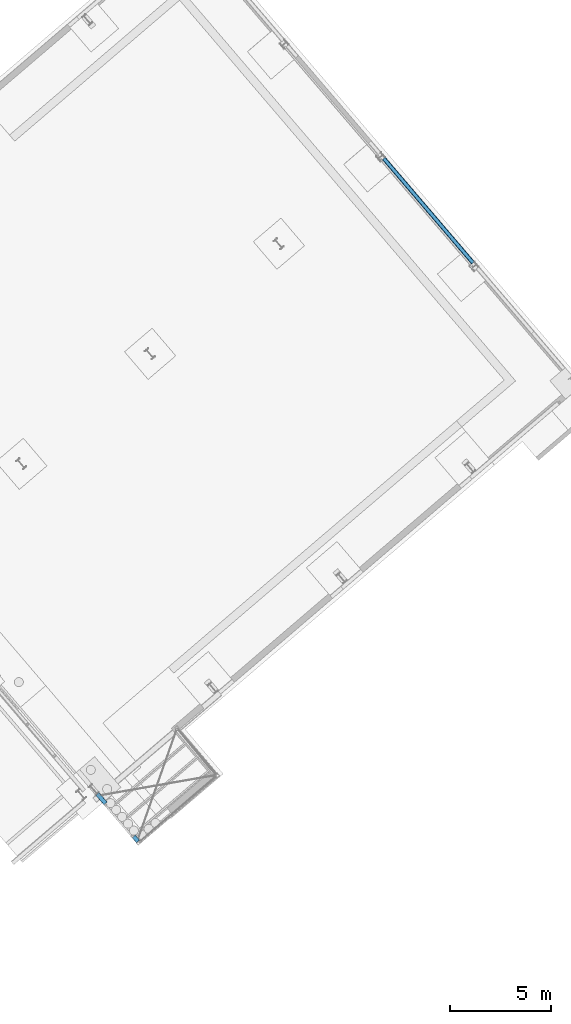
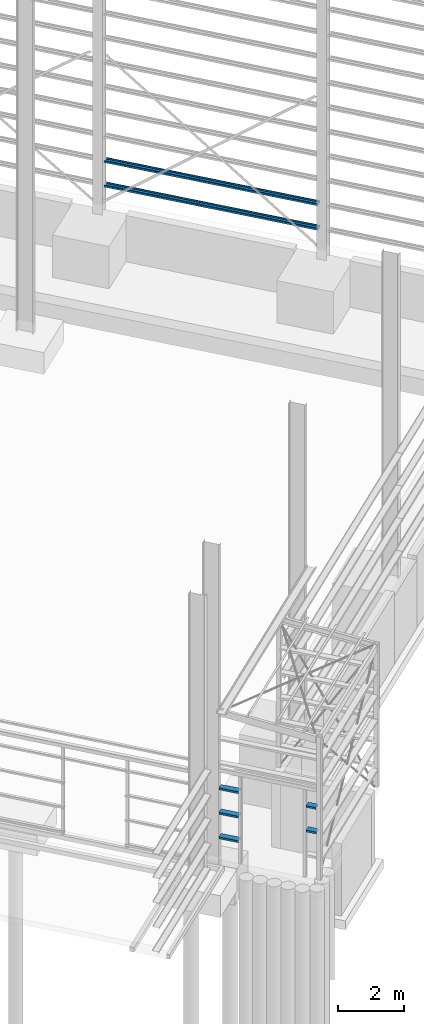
# One storey, part 33 of 41: 7 beams, 1 element without a shape of its own.
"""IFC2X3 building model written with IfcOpenShell, lengths in millimetres."""

from ifc_helpers import new_model, entity, si_unit, converted_unit, derived_unit, direction, frame, frame_2d, origin, place, context, subcontext, project, spatial, polyline, circle_curve, parameter, trimmed, segment, composite_curve, outline, extrude, material, type_object, element, aggregate, save


model = new_model("IFC2X3")

# Units and contexts
model_context = context("Model", 3, precision=0.01, world=origin(), true_north=direction((6.123031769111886e-17, 1.0)))
body_context = subcontext(model_context, "Body", "Model", "MODEL_VIEW")
ifc_project = project(units=[si_unit("LENGTHUNIT", "METRE", prefix="MILLI"), si_unit("AREAUNIT", "SQUARE_METRE"), si_unit("VOLUMEUNIT", "CUBIC_METRE"), converted_unit("PLANEANGLEUNIT", "DEGREE", entity("IfcRatioMeasure", 0.017453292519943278), si_unit("PLANEANGLEUNIT", "RADIAN"), dimensions=[0, 0, 0, 0, 0, 0, 0]), si_unit("MASSUNIT", "GRAM", prefix="KILO"), derived_unit("MASSDENSITYUNIT", [(si_unit("MASSUNIT", "GRAM", prefix="KILO"), 1), (si_unit("LENGTHUNIT", "METRE"), -3)]), derived_unit("MOMENTOFINERTIAUNIT", [(si_unit("LENGTHUNIT", "METRE"), 4)]), si_unit("TIMEUNIT", "SECOND"), si_unit("FREQUENCYUNIT", "HERTZ"), si_unit("THERMODYNAMICTEMPERATUREUNIT", "DEGREE_CELSIUS"), derived_unit("THERMALTRANSMITTANCEUNIT", [(si_unit("MASSUNIT", "GRAM", prefix="KILO"), 1), (si_unit("THERMODYNAMICTEMPERATUREUNIT", "KELVIN"), -1), (si_unit("TIMEUNIT", "SECOND"), -3)]), derived_unit("VOLUMETRICFLOWRATEUNIT", [(si_unit("LENGTHUNIT", "METRE"), 3), (si_unit("TIMEUNIT", "SECOND"), -1)]), derived_unit("MASSFLOWRATEUNIT", [(si_unit("MASSUNIT", "GRAM", prefix="KILO"), 1), (si_unit("TIMEUNIT", "SECOND"), -1)]), derived_unit("ROTATIONALFREQUENCYUNIT", [(si_unit("TIMEUNIT", "SECOND"), -1)]), si_unit("ELECTRICCURRENTUNIT", "AMPERE"), si_unit("ELECTRICVOLTAGEUNIT", "VOLT"), si_unit("POWERUNIT", "WATT"), si_unit("FORCEUNIT", "NEWTON", prefix="KILO"), si_unit("ILLUMINANCEUNIT", "LUX"), si_unit("LUMINOUSFLUXUNIT", "LUMEN"), si_unit("LUMINOUSINTENSITYUNIT", "CANDELA"), derived_unit("USERDEFINED", [(si_unit("MASSUNIT", "GRAM", prefix="KILO"), -1), (si_unit("LENGTHUNIT", "METRE"), -2), (si_unit("TIMEUNIT", "SECOND"), 3), (si_unit("LUMINOUSFLUXUNIT", "LUMEN"), 1)]), derived_unit("SOUNDPOWERUNIT", [(si_unit("MASSUNIT", "GRAM", prefix="KILO"), 1), (si_unit("LENGTHUNIT", "METRE"), 2), (si_unit("TIMEUNIT", "SECOND"), -3)]), derived_unit("LINEARVELOCITYUNIT", [(si_unit("LENGTHUNIT", "METRE"), 1), (si_unit("TIMEUNIT", "SECOND"), -1)]), si_unit("PRESSUREUNIT", "PASCAL"), derived_unit("USERDEFINED", [(si_unit("LENGTHUNIT", "METRE"), -2), (si_unit("MASSUNIT", "GRAM", prefix="KILO"), 1), (si_unit("TIMEUNIT", "SECOND"), -2)]), derived_unit("LINEARFORCEUNIT", [(si_unit("MASSUNIT", "GRAM", prefix="KILO"), 1), (si_unit("LENGTHUNIT", "METRE"), 1), (si_unit("TIMEUNIT", "SECOND"), -2), (si_unit("LENGTHUNIT", "METRE"), -1)]), derived_unit("PLANARFORCEUNIT", [(si_unit("MASSUNIT", "GRAM", prefix="KILO"), 1), (si_unit("LENGTHUNIT", "METRE"), 1), (si_unit("TIMEUNIT", "SECOND"), -2), (si_unit("LENGTHUNIT", "METRE"), -2)])], contexts=[model_context])

# Site, building, storey
site_placement = place(None, frame((962.4174930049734, -6014.433753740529, 0.0), z_axis=(0.0, 0.0, 1.0), x_axis=(0.7601792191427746, 0.649713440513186, 0.0)))
site = spatial("IfcSite", under=ifc_project, at=site_placement, Name="Default", CompositionType="ELEMENT")
building_placement = place(site_placement, origin())
building = spatial("IfcBuilding", under=site, at=building_placement, CompositionType="ELEMENT")
storey_placement = place(building_placement, origin())
storey = spatial("IfcBuildingStorey", under=building, at=storey_placement, Name="Datum", CompositionType="ELEMENT", Elevation=0.0)

# Assembly, beams
assembly_placement = place(building_placement, origin())
assembly = element("IfcElementAssembly", 1, at=assembly_placement, inside=storey, Name="Structural Beam System:Structural Beam System 1", ObjectType="Structural Beam System:Structural Beam System 1", AssemblyPlace="NOTDEFINED", PredefinedType="BEAM_GRID")
ifc_material = material(Name="Metal - Light Gauge")
beam_type_1 = type_object("IfcBeamType", Name="ADSK_AUS_Light Gauge-Joists:C20015", PredefinedType="NOTDEFINED")
beam_1_placement = place(building_placement, frame((185748.56020470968, -18217.31558212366, 1505.616355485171), z_axis=(0.0, 0.0, 1.0), x_axis=(0.0, 1.0, 0.0)))
beam_1 = element("IfcBeam", 2, at=beam_1_placement, type_object=beam_type_1, material=ifc_material, Name="ADSK_AUS_Light Gauge-Joists:C20015", ObjectType="ADSK_AUS_Light Gauge-Joists:C20015", context=body_context, shape_type="SweptSolid", body=[
    extrude(outline(composite_curve([segment(polyline([(-25.691849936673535, -101.50000000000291), (39.49184993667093, -101.50000000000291)]), True, "CONTINUOUS"), segment(trimmed(circle_curve(frame_2d((39.491849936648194, -98.8418499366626), x_axis=(0.0, -1.0)), 2.658150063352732), [parameter(0.0)], [parameter(89.99999999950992)], True, "PARAMETER"), True, "CONTINUOUS"), segment(polyline([(42.15000000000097, -98.8418499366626), (42.15000000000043, 98.84184993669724)]), True, "CONTINUOUS"), segment(trimmed(circle_curve(frame_2d((39.491849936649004, 98.84184993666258), x_axis=(1.0, 0.0)), 2.6581500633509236), [parameter(0.0)], [parameter(89.99999999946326)], True, "PARAMETER"), True, "CONTINUOUS"), segment(polyline([(39.49184993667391, 101.50000000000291), (-25.691849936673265, 101.50000000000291)]), True, "CONTINUOUS"), segment(trimmed(circle_curve(frame_2d((-25.691849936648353, 98.84184993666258), x_axis=(0.0, 1.0)), 2.658150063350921), [parameter(0.0)], [parameter(89.99999999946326)], True, "PARAMETER"), True, "CONTINUOUS"), segment(polyline([(-28.34999999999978, 98.84184993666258), (-28.34999999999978, 80.0)]), True, "CONTINUOUS"), segment(polyline([(-28.34999999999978, 80.0), (-26.849999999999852, 80.0)]), True, "CONTINUOUS"), segment(polyline([(-26.849999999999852, 80.0), (-26.849999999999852, 98.42934993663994)]), True, "CONTINUOUS"), segment(trimmed(circle_curve(frame_2d((-25.279349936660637, 98.4293499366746), x_axis=(-1.0, 0.0)), 1.5706500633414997), [parameter(270.00000000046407)], [parameter(0.0)], True, "PARAMETER"), False, "CONTINUOUS"), segment(polyline([(-25.279349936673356, 100.0), (39.07934993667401, 100.0)]), True, "CONTINUOUS"), segment(trimmed(circle_curve(frame_2d((39.07934993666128, 98.4293499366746), x_axis=(0.0, 1.0)), 1.5706500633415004), [parameter(270.00000000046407)], [parameter(0.0)], True, "PARAMETER"), False, "CONTINUOUS"), segment(polyline([(40.6500000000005, 98.4293499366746), (40.65000000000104, -98.4293499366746)]), True, "CONTINUOUS"), segment(trimmed(circle_curve(frame_2d((39.07934993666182, -98.4293499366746), x_axis=(1.0, 0.0)), 1.5706500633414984), [parameter(270.00000000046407)], [parameter(0.0)], True, "PARAMETER"), False, "CONTINUOUS"), segment(polyline([(39.07934993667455, -100.0), (-25.279349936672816, -100.0)]), True, "CONTINUOUS"), segment(trimmed(circle_curve(frame_2d((-25.279349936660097, -98.4293499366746), x_axis=(0.0, -1.0)), 1.5706500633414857), [parameter(270.00000000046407)], [parameter(0.0)], True, "PARAMETER"), False, "CONTINUOUS"), segment(polyline([(-26.849999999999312, -98.4293499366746), (-26.849999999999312, -80.0)]), True, "CONTINUOUS"), segment(polyline([(-26.849999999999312, -80.0), (-28.34999999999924, -80.0)]), True, "CONTINUOUS"), segment(polyline([(-28.34999999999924, -80.0), (-28.34999999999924, -98.84184993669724)]), True, "CONTINUOUS"), segment(trimmed(circle_curve(frame_2d((-25.691849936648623, -98.8418499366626), x_axis=(-1.0, 0.0)), 2.6581500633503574), [parameter(0.0)], [parameter(89.99999999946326)], True, "PARAMETER"), True, "CONTINUOUS")], self_intersect=False)), frame((12.943749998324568, -101.50000000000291, 42.1500000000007), z_axis=(1.0, 0.0, 0.0), x_axis=(0.0, 0.0, -1.0)), (0.0, 0.0, 1.0), 6816.000000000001),
])
beam_2_placement = place(building_placement, frame((185748.56020470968, -18217.31558212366, 605.6163554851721), z_axis=(0.0, 0.0, 1.0), x_axis=(0.0, 1.0, 0.0)))
beam_2 = element("IfcBeam", 3, at=beam_2_placement, type_object=beam_type_1, material=ifc_material, Name="ADSK_AUS_Light Gauge-Joists:C20015", ObjectType="ADSK_AUS_Light Gauge-Joists:C20015", context=body_context, shape_type="SweptSolid", body=[
    extrude(outline(composite_curve([segment(polyline([(-25.69184993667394, -101.50000000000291), (39.4918499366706, -101.50000000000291)]), True, "CONTINUOUS"), segment(trimmed(circle_curve(frame_2d((39.49184993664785, -98.8418499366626), x_axis=(0.0, -1.0)), 2.658150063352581), [parameter(0.0)], [parameter(89.99999999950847)], True, "PARAMETER"), True, "CONTINUOUS"), segment(polyline([(42.15000000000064, -98.8418499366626), (42.15000000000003, 98.84184993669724)]), True, "CONTINUOUS"), segment(trimmed(circle_curve(frame_2d((39.49184993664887, 98.84184993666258), x_axis=(1.0, 0.0)), 2.6581500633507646), [parameter(0.0)], [parameter(89.99999999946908)], True, "PARAMETER"), True, "CONTINUOUS"), segment(polyline([(39.4918499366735, 101.50000000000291), (-25.691849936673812, 101.50000000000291)]), True, "CONTINUOUS"), segment(trimmed(circle_curve(frame_2d((-25.691849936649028, 98.84184993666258), x_axis=(0.0, 1.0)), 2.6581500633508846), [parameter(0.0)], [parameter(89.99999999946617)], True, "PARAMETER"), True, "CONTINUOUS"), segment(polyline([(-28.350000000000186, 98.84184993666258), (-28.350000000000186, 80.0)]), True, "CONTINUOUS"), segment(polyline([(-28.350000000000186, 80.0), (-26.850000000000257, 80.0)]), True, "CONTINUOUS"), segment(polyline([(-26.850000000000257, 80.0), (-26.850000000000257, 98.42934993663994)]), True, "CONTINUOUS"), segment(trimmed(circle_curve(frame_2d((-25.279349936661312, 98.4293499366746), x_axis=(-1.0, 0.0)), 1.5706500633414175), [parameter(270.0000000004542)], [parameter(0.0)], True, "PARAMETER"), False, "CONTINUOUS"), segment(polyline([(-25.27934993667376, 100.0), (39.0793499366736, 100.0)]), True, "CONTINUOUS"), segment(trimmed(circle_curve(frame_2d((39.079349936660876, 98.4293499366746), x_axis=(0.0, 1.0)), 1.5706500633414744), [parameter(270.0000000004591)], [parameter(0.0)], True, "PARAMETER"), False, "CONTINUOUS"), segment(polyline([(40.64999999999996, 98.4293499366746), (40.65000000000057, -98.4293499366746)]), True, "CONTINUOUS"), segment(trimmed(circle_curve(frame_2d((39.07934993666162, -98.4293499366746), x_axis=(1.0, 0.0)), 1.5706500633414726), [parameter(270.0000000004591)], [parameter(0.0)], True, "PARAMETER"), False, "CONTINUOUS"), segment(polyline([(39.079349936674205, -100.0), (-25.279349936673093, -100.0)]), True, "CONTINUOUS"), segment(trimmed(circle_curve(frame_2d((-25.279349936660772, -98.4293499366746), x_axis=(0.0, -1.0)), 1.5706500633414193), [parameter(270.0000000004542)], [parameter(0.0)], True, "PARAMETER"), False, "CONTINUOUS"), segment(polyline([(-26.849999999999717, -98.4293499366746), (-26.849999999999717, -80.0)]), True, "CONTINUOUS"), segment(polyline([(-26.849999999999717, -80.0), (-28.349999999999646, -80.0)]), True, "CONTINUOUS"), segment(polyline([(-28.349999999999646, -80.0), (-28.349999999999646, -98.84184993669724)]), True, "CONTINUOUS"), segment(trimmed(circle_curve(frame_2d((-25.6918499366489, -98.8418499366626), x_axis=(-1.0, 0.0)), 2.6581500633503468), [parameter(0.0)], [parameter(89.99999999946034)], True, "PARAMETER"), True, "CONTINUOUS")], self_intersect=False)), frame((12.943749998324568, -101.50000000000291, 42.1500000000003), z_axis=(1.0, 0.0, 0.0), x_axis=(0.0, 0.0, -1.0)), (0.0, 0.0, 1.0), 6816.000000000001),
])
aggregate(assembly, [beam_1, beam_2])

# Beams
beam_type_2 = type_object("IfcBeamType", Name="ADSK_AUS_Light Gauge-Joists:C20019", PredefinedType="NOTDEFINED")
beam_3_placement = place(building_placement, frame((154469.96020470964, -26143.128082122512, 2629.929873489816), z_axis=(0.0, 0.0, 1.0), x_axis=(0.0, -1.0, 0.0)))
element("IfcBeam", 4, at=beam_3_placement, inside=storey, type_object=beam_type_2, material=ifc_material, Name="ADSK_AUS_Light Gauge-Joists:C20019", ObjectType="ADSK_AUS_Light Gauge-Joists:C20019", context=body_context, shape_type="SweptSolid", body=[
    extrude(outline(composite_curve([segment(polyline([(-40.5518499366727, -101.50000000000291), (26.33184993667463, -101.50000000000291)]), True, "CONTINUOUS"), segment(trimmed(circle_curve(frame_2d((26.331849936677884, -98.44184993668), x_axis=(0.0, -1.0)), 3.058150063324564), [parameter(0.0)], [parameter(90.00000000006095)], True, "PARAMETER"), True, "CONTINUOUS"), segment(polyline([(29.390000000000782, -98.44184993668), (29.390000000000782, -78.50000000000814)]), True, "CONTINUOUS"), segment(polyline([(29.390000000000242, -78.49999999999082), (27.490000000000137, -78.49999999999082)]), True, "CONTINUOUS"), segment(polyline([(27.490000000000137, -78.49999999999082), (27.490000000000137, -98.02934993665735)]), True, "CONTINUOUS"), segment(trimmed(circle_curve(frame_2d((25.919349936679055, -98.02934993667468), x_axis=(1.0, 0.0)), 1.5706500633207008), [parameter(269.99999999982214)], [parameter(0.0)], True, "PARAMETER"), False, "CONTINUOUS"), segment(polyline([(25.91934993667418, -99.59999999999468), (-40.139349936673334, -99.59999999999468)]), True, "CONTINUOUS"), segment(trimmed(circle_curve(frame_2d((-40.13934993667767, -98.02934993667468), x_axis=(0.0, -1.0)), 1.5706500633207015), [parameter(269.99999999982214)], [parameter(0.0)], True, "PARAMETER"), False, "CONTINUOUS"), segment(polyline([(-41.70999999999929, -98.02934993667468), (-41.70999999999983, 98.02934993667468)]), True, "CONTINUOUS"), segment(trimmed(circle_curve(frame_2d((-40.13934993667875, 98.02934993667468), x_axis=(-1.0, 0.0)), 1.5706500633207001), [parameter(269.99999999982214)], [parameter(0.0)], True, "PARAMETER"), False, "CONTINUOUS"), segment(polyline([(-40.13934993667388, 99.5999999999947), (25.91934993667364, 99.5999999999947)]), True, "CONTINUOUS"), segment(trimmed(circle_curve(frame_2d((25.919349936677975, 98.02934993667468), x_axis=(0.0, 1.0)), 1.5706500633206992), [parameter(269.99999999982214)], [parameter(0.0)], True, "PARAMETER"), False, "CONTINUOUS"), segment(polyline([(27.489999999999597, 98.02934993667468), (27.489999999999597, 78.50000000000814)]), True, "CONTINUOUS"), segment(polyline([(27.490000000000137, 78.50000000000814), (29.390000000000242, 78.50000000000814)]), True, "CONTINUOUS"), segment(polyline([(29.390000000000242, 78.50000000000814), (29.390000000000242, 98.44184993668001)]), True, "CONTINUOUS"), segment(trimmed(circle_curve(frame_2d((26.33184993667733, 98.44184993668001), x_axis=(1.0, 0.0)), 3.058150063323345), [parameter(0.0)], [parameter(90.00000000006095)], True, "PARAMETER"), True, "CONTINUOUS"), segment(polyline([(26.33184993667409, 101.50000000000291), (-40.551849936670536, 101.50000000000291)]), True, "CONTINUOUS"), segment(trimmed(circle_curve(frame_2d((-40.55184993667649, 98.44184993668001), x_axis=(0.0, 1.0)), 3.05815006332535), [parameter(0.0)], [parameter(90.00000000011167)], True, "PARAMETER"), True, "CONTINUOUS"), segment(polyline([(-43.61000000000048, 98.44184993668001), (-43.60999999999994, -98.44184993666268)]), True, "CONTINUOUS"), segment(trimmed(circle_curve(frame_2d((-40.55184993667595, -98.44184993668), x_axis=(-1.0, 0.0)), 3.0581500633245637), [parameter(0.0)], [parameter(90.00000000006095)], True, "PARAMETER"), True, "CONTINUOUS")], self_intersect=False)), frame((-30.0, 101.50000000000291, -43.60999999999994), z_axis=(1.0, 0.0, 0.0), x_axis=(0.0, 0.0, -1.0)), (0.0, 0.0, 1.0), 624.0000000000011),
])
beam_4_placement = place(building_placement, frame((154469.96020470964, -26115.488598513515, 1729.929873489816), z_axis=(0.0, 0.0, 1.0), x_axis=(0.0, -1.0, 0.0)))
element("IfcBeam", 5, at=beam_4_placement, inside=storey, type_object=beam_type_2, material=ifc_material, Name="ADSK_AUS_Light Gauge-Joists:C20019", ObjectType="ADSK_AUS_Light Gauge-Joists:C20019", context=body_context, shape_type="SweptSolid", body=[
    extrude(outline(composite_curve([segment(polyline([(-40.55184993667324, -101.50000000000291), (26.33184993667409, -101.50000000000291)]), True, "CONTINUOUS"), segment(trimmed(circle_curve(frame_2d((26.331849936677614, -98.44184993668), x_axis=(0.0, -1.0)), 3.0581500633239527), [parameter(0.0)], [parameter(90.00000000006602)], True, "PARAMETER"), True, "CONTINUOUS"), segment(polyline([(29.390000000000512, -98.44184993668), (29.390000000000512, -78.50000000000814)]), True, "CONTINUOUS"), segment(polyline([(29.390000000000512, -78.49999999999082), (27.490000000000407, -78.49999999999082)]), True, "CONTINUOUS"), segment(polyline([(27.490000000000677, -78.49999999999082), (27.490000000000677, -98.02934993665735)]), True, "CONTINUOUS"), segment(trimmed(circle_curve(frame_2d((25.919349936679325, -98.02934993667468), x_axis=(1.0, 0.0)), 1.570650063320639), [parameter(269.9999999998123)], [parameter(0.0)], True, "PARAMETER"), False, "CONTINUOUS"), segment(polyline([(25.91934993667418, -99.59999999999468), (-40.139349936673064, -99.59999999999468)]), True, "CONTINUOUS"), segment(trimmed(circle_curve(frame_2d((-40.13934993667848, -98.02934993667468), x_axis=(0.0, -1.0)), 1.570650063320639), [parameter(269.9999999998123)], [parameter(0.0)], True, "PARAMETER"), False, "CONTINUOUS"), segment(polyline([(-41.70999999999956, -98.02934993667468), (-41.71000000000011, 98.02934993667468)]), True, "CONTINUOUS"), segment(trimmed(circle_curve(frame_2d((-40.139349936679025, 98.02934993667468), x_axis=(-1.0, 0.0)), 1.5706500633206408), [parameter(269.9999999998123)], [parameter(0.0)], True, "PARAMETER"), False, "CONTINUOUS"), segment(polyline([(-40.13934993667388, 99.5999999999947), (25.91934993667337, 99.5999999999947)]), True, "CONTINUOUS"), segment(trimmed(circle_curve(frame_2d((25.919349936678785, 98.02934993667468), x_axis=(0.0, 1.0)), 1.5706500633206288), [parameter(269.9999999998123)], [parameter(0.0)], True, "PARAMETER"), False, "CONTINUOUS"), segment(polyline([(27.490000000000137, 98.02934993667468), (27.490000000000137, 78.50000000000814)]), True, "CONTINUOUS"), segment(polyline([(27.490000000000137, 78.50000000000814), (29.390000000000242, 78.50000000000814)]), True, "CONTINUOUS"), segment(polyline([(29.389999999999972, 78.50000000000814), (29.389999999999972, 98.44184993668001)]), True, "CONTINUOUS"), segment(trimmed(circle_curve(frame_2d((26.33184993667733, 98.44184993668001), x_axis=(1.0, 0.0)), 3.0581500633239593), [parameter(0.0)], [parameter(90.00000000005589)], True, "PARAMETER"), True, "CONTINUOUS"), segment(polyline([(26.33184993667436, 101.50000000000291), (-40.551849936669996, 101.50000000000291)]), True, "CONTINUOUS"), segment(trimmed(circle_curve(frame_2d((-40.55184993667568, 98.44184993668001), x_axis=(0.0, 1.0)), 3.0581500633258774), [parameter(0.0)], [parameter(90.00000000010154)], True, "PARAMETER"), True, "CONTINUOUS"), segment(polyline([(-43.61000000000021, 98.44184993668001), (-43.60999999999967, -98.44184993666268)]), True, "CONTINUOUS"), segment(trimmed(circle_curve(frame_2d((-40.55184993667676, -98.44184993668), x_axis=(-1.0, 0.0)), 3.058150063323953), [parameter(0.0)], [parameter(90.00000000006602)], True, "PARAMETER"), True, "CONTINUOUS")], self_intersect=False)), frame((-2.0, 101.50000000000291, -43.60999999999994), z_axis=(1.0, 0.0, 0.0), x_axis=(0.0, 0.0, -1.0)), (0.0, 0.0, 1.0), 623.0000000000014),
])
beam_5_placement = place(building_placement, frame((154469.96020470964, -26123.128082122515, 829.9298734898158), z_axis=(0.0, 0.0, 1.0), x_axis=(0.0, -1.0, 0.0)))
element("IfcBeam", 6, at=beam_5_placement, inside=storey, type_object=beam_type_2, material=ifc_material, Name="ADSK_AUS_Light Gauge-Joists:C20019", ObjectType="ADSK_AUS_Light Gauge-Joists:C20019", context=body_context, shape_type="SweptSolid", body=[
    extrude(outline(composite_curve([segment(polyline([(-40.55184993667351, -101.50000000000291), (26.33184993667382, -101.50000000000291)]), True, "CONTINUOUS"), segment(trimmed(circle_curve(frame_2d((26.331849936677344, -98.44184993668), x_axis=(0.0, -1.0)), 3.058150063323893), [parameter(0.0)], [parameter(90.00000000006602)], True, "PARAMETER"), True, "CONTINUOUS"), segment(polyline([(29.390000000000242, -98.44184993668), (29.390000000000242, -78.50000000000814)]), True, "CONTINUOUS"), segment(polyline([(29.390000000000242, -78.49999999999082), (27.49000000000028, -78.49999999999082)]), True, "CONTINUOUS"), segment(polyline([(27.49000000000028, -78.49999999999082), (27.49000000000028, -98.02934993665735)]), True, "CONTINUOUS"), segment(trimmed(circle_curve(frame_2d((25.919349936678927, -98.02934993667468), x_axis=(1.0, 0.0)), 1.5706500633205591), [parameter(269.9999999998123)], [parameter(0.0)], True, "PARAMETER"), False, "CONTINUOUS"), segment(polyline([(25.919349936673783, -99.59999999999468), (-40.139349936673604, -99.59999999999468)]), True, "CONTINUOUS"), segment(trimmed(circle_curve(frame_2d((-40.13934993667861, -98.02934993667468), x_axis=(0.0, -1.0)), 1.5706500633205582), [parameter(269.9999999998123)], [parameter(0.0)], True, "PARAMETER"), False, "CONTINUOUS"), segment(polyline([(-41.709999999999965, -98.02934993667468), (-41.71000000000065, 98.02934993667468)]), True, "CONTINUOUS"), segment(trimmed(circle_curve(frame_2d((-40.13934993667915, 98.02934993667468), x_axis=(-1.0, 0.0)), 1.5706500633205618), [parameter(269.9999999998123)], [parameter(0.0)], True, "PARAMETER"), False, "CONTINUOUS"), segment(polyline([(-40.139349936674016, 99.5999999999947), (25.91934993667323, 99.5999999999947)]), True, "CONTINUOUS"), segment(trimmed(circle_curve(frame_2d((25.919349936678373, 98.02934993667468), x_axis=(0.0, 1.0)), 1.5706500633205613), [parameter(269.9999999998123)], [parameter(0.0)], True, "PARAMETER"), False, "CONTINUOUS"), segment(polyline([(27.489999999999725, 98.02934993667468), (27.489999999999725, 78.50000000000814)]), True, "CONTINUOUS"), segment(polyline([(27.489999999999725, 78.50000000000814), (29.389999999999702, 78.50000000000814)]), True, "CONTINUOUS"), segment(polyline([(29.389999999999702, 78.50000000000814), (29.389999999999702, 98.44184993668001)]), True, "CONTINUOUS"), segment(trimmed(circle_curve(frame_2d((26.33184993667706, 98.44184993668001), x_axis=(1.0, 0.0)), 3.058150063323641), [parameter(0.0)], [parameter(90.00000000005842)], True, "PARAMETER"), True, "CONTINUOUS"), segment(polyline([(26.331849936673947, 101.50000000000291), (-40.551849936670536, 101.50000000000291)]), True, "CONTINUOUS"), segment(trimmed(circle_curve(frame_2d((-40.55184993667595, 98.44184993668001), x_axis=(0.0, 1.0)), 3.0581500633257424), [parameter(0.0)], [parameter(90.00000000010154)], True, "PARAMETER"), True, "CONTINUOUS"), segment(polyline([(-43.61000000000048, 98.44184993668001), (-43.60999999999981, -98.44184993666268)]), True, "CONTINUOUS"), segment(trimmed(circle_curve(frame_2d((-40.55184993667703, -98.44184993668), x_axis=(-1.0, 0.0)), 3.058150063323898), [parameter(0.0)], [parameter(90.00000000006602)], True, "PARAMETER"), True, "CONTINUOUS")], self_intersect=False)), frame((-10.0, 101.50000000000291, -43.61000000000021), z_axis=(1.0, 0.0, 0.0), x_axis=(0.0, 0.0, -1.0)), (0.0, 0.0, 1.0), 624.0000000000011),
])
beam_6_placement = place(building_placement, frame((154469.96020470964, -28923.428082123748, 2629.929873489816), z_axis=(0.0, 0.0, 1.0), x_axis=(0.0, -1.0, 0.0)))
element("IfcBeam", 7, at=beam_6_placement, inside=storey, type_object=beam_type_2, material=ifc_material, Name="ADSK_AUS_Light Gauge-Joists:C20019", ObjectType="ADSK_AUS_Light Gauge-Joists:C20019", context=body_context, shape_type="SweptSolid", body=[
    extrude(outline(composite_curve([segment(polyline([(-40.5518499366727, -101.50000000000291), (26.33184993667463, -101.50000000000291)]), True, "CONTINUOUS"), segment(trimmed(circle_curve(frame_2d((26.331849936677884, -98.44184993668), x_axis=(0.0, -1.0)), 3.058150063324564), [parameter(0.0)], [parameter(90.00000000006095)], True, "PARAMETER"), True, "CONTINUOUS"), segment(polyline([(29.390000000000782, -98.44184993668), (29.390000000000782, -78.50000000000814)]), True, "CONTINUOUS"), segment(polyline([(29.390000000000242, -78.49999999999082), (27.490000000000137, -78.49999999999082)]), True, "CONTINUOUS"), segment(polyline([(27.490000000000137, -78.49999999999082), (27.490000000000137, -98.02934993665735)]), True, "CONTINUOUS"), segment(trimmed(circle_curve(frame_2d((25.919349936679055, -98.02934993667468), x_axis=(1.0, 0.0)), 1.5706500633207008), [parameter(269.99999999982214)], [parameter(0.0)], True, "PARAMETER"), False, "CONTINUOUS"), segment(polyline([(25.91934993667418, -99.59999999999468), (-40.139349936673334, -99.59999999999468)]), True, "CONTINUOUS"), segment(trimmed(circle_curve(frame_2d((-40.13934993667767, -98.02934993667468), x_axis=(0.0, -1.0)), 1.5706500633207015), [parameter(269.99999999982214)], [parameter(0.0)], True, "PARAMETER"), False, "CONTINUOUS"), segment(polyline([(-41.70999999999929, -98.02934993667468), (-41.70999999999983, 98.02934993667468)]), True, "CONTINUOUS"), segment(trimmed(circle_curve(frame_2d((-40.13934993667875, 98.02934993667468), x_axis=(-1.0, 0.0)), 1.5706500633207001), [parameter(269.99999999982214)], [parameter(0.0)], True, "PARAMETER"), False, "CONTINUOUS"), segment(polyline([(-40.13934993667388, 99.5999999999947), (25.91934993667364, 99.5999999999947)]), True, "CONTINUOUS"), segment(trimmed(circle_curve(frame_2d((25.919349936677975, 98.02934993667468), x_axis=(0.0, 1.0)), 1.5706500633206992), [parameter(269.99999999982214)], [parameter(0.0)], True, "PARAMETER"), False, "CONTINUOUS"), segment(polyline([(27.489999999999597, 98.02934993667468), (27.489999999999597, 78.50000000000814)]), True, "CONTINUOUS"), segment(polyline([(27.490000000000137, 78.50000000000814), (29.390000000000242, 78.50000000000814)]), True, "CONTINUOUS"), segment(polyline([(29.390000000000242, 78.50000000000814), (29.390000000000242, 98.44184993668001)]), True, "CONTINUOUS"), segment(trimmed(circle_curve(frame_2d((26.33184993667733, 98.44184993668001), x_axis=(1.0, 0.0)), 3.058150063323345), [parameter(0.0)], [parameter(90.00000000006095)], True, "PARAMETER"), True, "CONTINUOUS"), segment(polyline([(26.33184993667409, 101.50000000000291), (-40.551849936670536, 101.50000000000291)]), True, "CONTINUOUS"), segment(trimmed(circle_curve(frame_2d((-40.55184993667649, 98.44184993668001), x_axis=(0.0, 1.0)), 3.05815006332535), [parameter(0.0)], [parameter(90.00000000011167)], True, "PARAMETER"), True, "CONTINUOUS"), segment(polyline([(-43.61000000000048, 98.44184993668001), (-43.60999999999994, -98.44184993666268)]), True, "CONTINUOUS"), segment(trimmed(circle_curve(frame_2d((-40.55184993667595, -98.44184993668), x_axis=(-1.0, 0.0)), 3.0581500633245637), [parameter(0.0)], [parameter(90.00000000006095)], True, "PARAMETER"), True, "CONTINUOUS")], self_intersect=False)), frame((-28.0, 101.50000000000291, -43.60999999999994), z_axis=(1.0, 0.0, 0.0), x_axis=(0.0, 0.0, -1.0)), (0.0, 0.0, 1.0), 315.00000000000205),
])
beam_7_placement = place(building_placement, frame((154469.96020470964, -28898.42808212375, 1729.929873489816), z_axis=(0.0, 0.0, 1.0), x_axis=(0.0, -1.0, 0.0)))
element("IfcBeam", 8, at=beam_7_placement, inside=storey, type_object=beam_type_2, material=ifc_material, Name="ADSK_AUS_Light Gauge-Joists:C20019", ObjectType="ADSK_AUS_Light Gauge-Joists:C20019", context=body_context, shape_type="SweptSolid", body=[
    extrude(outline(composite_curve([segment(polyline([(-40.55184993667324, -101.50000000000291), (26.33184993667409, -101.50000000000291)]), True, "CONTINUOUS"), segment(trimmed(circle_curve(frame_2d((26.331849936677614, -98.44184993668), x_axis=(0.0, -1.0)), 3.0581500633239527), [parameter(0.0)], [parameter(90.00000000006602)], True, "PARAMETER"), True, "CONTINUOUS"), segment(polyline([(29.390000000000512, -98.44184993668), (29.390000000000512, -78.50000000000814)]), True, "CONTINUOUS"), segment(polyline([(29.390000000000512, -78.49999999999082), (27.490000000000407, -78.49999999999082)]), True, "CONTINUOUS"), segment(polyline([(27.490000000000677, -78.49999999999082), (27.490000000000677, -98.02934993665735)]), True, "CONTINUOUS"), segment(trimmed(circle_curve(frame_2d((25.919349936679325, -98.02934993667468), x_axis=(1.0, 0.0)), 1.570650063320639), [parameter(269.9999999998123)], [parameter(0.0)], True, "PARAMETER"), False, "CONTINUOUS"), segment(polyline([(25.91934993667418, -99.59999999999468), (-40.139349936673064, -99.59999999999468)]), True, "CONTINUOUS"), segment(trimmed(circle_curve(frame_2d((-40.13934993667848, -98.02934993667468), x_axis=(0.0, -1.0)), 1.570650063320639), [parameter(269.9999999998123)], [parameter(0.0)], True, "PARAMETER"), False, "CONTINUOUS"), segment(polyline([(-41.70999999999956, -98.02934993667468), (-41.71000000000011, 98.02934993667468)]), True, "CONTINUOUS"), segment(trimmed(circle_curve(frame_2d((-40.139349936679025, 98.02934993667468), x_axis=(-1.0, 0.0)), 1.5706500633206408), [parameter(269.9999999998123)], [parameter(0.0)], True, "PARAMETER"), False, "CONTINUOUS"), segment(polyline([(-40.13934993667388, 99.5999999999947), (25.91934993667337, 99.5999999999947)]), True, "CONTINUOUS"), segment(trimmed(circle_curve(frame_2d((25.919349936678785, 98.02934993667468), x_axis=(0.0, 1.0)), 1.5706500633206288), [parameter(269.9999999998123)], [parameter(0.0)], True, "PARAMETER"), False, "CONTINUOUS"), segment(polyline([(27.490000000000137, 98.02934993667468), (27.490000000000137, 78.50000000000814)]), True, "CONTINUOUS"), segment(polyline([(27.490000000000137, 78.50000000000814), (29.390000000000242, 78.50000000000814)]), True, "CONTINUOUS"), segment(polyline([(29.389999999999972, 78.50000000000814), (29.389999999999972, 98.44184993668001)]), True, "CONTINUOUS"), segment(trimmed(circle_curve(frame_2d((26.33184993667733, 98.44184993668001), x_axis=(1.0, 0.0)), 3.0581500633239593), [parameter(0.0)], [parameter(90.00000000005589)], True, "PARAMETER"), True, "CONTINUOUS"), segment(polyline([(26.33184993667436, 101.50000000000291), (-40.551849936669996, 101.50000000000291)]), True, "CONTINUOUS"), segment(trimmed(circle_curve(frame_2d((-40.55184993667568, 98.44184993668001), x_axis=(0.0, 1.0)), 3.0581500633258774), [parameter(0.0)], [parameter(90.00000000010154)], True, "PARAMETER"), True, "CONTINUOUS"), segment(polyline([(-43.61000000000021, 98.44184993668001), (-43.60999999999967, -98.44184993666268)]), True, "CONTINUOUS"), segment(trimmed(circle_curve(frame_2d((-40.55184993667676, -98.44184993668), x_axis=(-1.0, 0.0)), 3.058150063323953), [parameter(0.0)], [parameter(90.00000000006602)], True, "PARAMETER"), True, "CONTINUOUS")], self_intersect=False)), frame((-3.0, 101.50000000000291, -43.60999999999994), z_axis=(1.0, 0.0, 0.0), x_axis=(0.0, 0.0, -1.0)), (0.0, 0.0, 1.0), 328.0000000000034),
])

save(model, "model.ifc")
